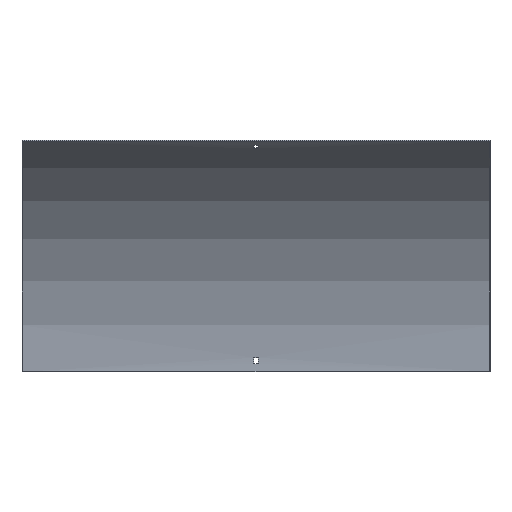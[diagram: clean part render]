
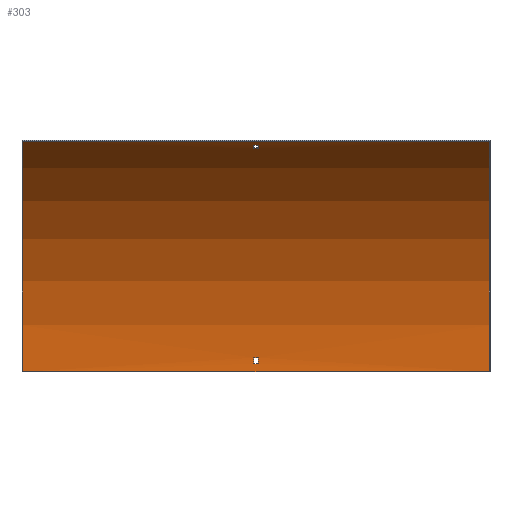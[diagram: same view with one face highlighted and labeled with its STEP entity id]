
A CAD part, front view. The second image highlights one B-rep face of the part: STEP entity #303.
In plain terms, the highlighted cylindrical face has radius 400 mm (diameter 800 mm), a partial arc.
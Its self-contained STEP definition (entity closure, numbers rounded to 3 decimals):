
#1 = EDGE_CURVE ( 'NONE', #235, #529, #507, .T. ) ;
#6 = ORIENTED_EDGE ( 'NONE', *, *, #49, .F. ) ;
#7 = VERTEX_POINT ( 'NONE', #135 ) ;
#9 = LINE ( 'NONE', #280, #113 ) ;
#12 = DIRECTION ( 'NONE',  ( -1., 0., 0. ) ) ;
#14 = LINE ( 'NONE', #530, #281 ) ;
#29 = FACE_OUTER_BOUND ( 'NONE', #126, .T. ) ;
#35 = DIRECTION ( 'NONE',  ( 1., 0., 0. ) ) ;
#37 = DIRECTION ( 'NONE',  ( -1., 0., 0. ) ) ;
#47 = VERTEX_POINT ( 'NONE', #350 ) ;
#49 = EDGE_CURVE ( 'NONE', #591, #105, #145, .T. ) ;
#54 = EDGE_CURVE ( 'NONE', #584, #407, #182, .T. ) ;
#60 = DIRECTION ( 'NONE',  ( -1., 0., 0. ) ) ;
#72 = CARTESIAN_POINT ( 'NONE',  ( 3.25, -183.589, 335.432 ) ) ;
#86 = VECTOR ( 'NONE', #343, 1000. ) ;
#89 = AXIS2_PLACEMENT_3D ( 'NONE', #285, #373, #480 ) ;
#91 = CARTESIAN_POINT ( 'NONE',  ( 351.5, -401.5, 0. ) ) ;
#99 = ORIENTED_EDGE ( 'NONE', *, *, #551, .F. ) ;
#105 = VERTEX_POINT ( 'NONE', #305 ) ;
#113 = VECTOR ( 'NONE', #255, 1000. ) ;
#118 = EDGE_CURVE ( 'NONE', #529, #584, #9, .T. ) ;
#120 = CARTESIAN_POINT ( 'NONE',  ( 350., -401.5, 0. ) ) ;
#122 = CARTESIAN_POINT ( 'NONE',  ( 3.25, -191.198, 340.254 ) ) ;
#126 = EDGE_LOOP ( 'NONE', ( #488, #419, #428, #505 ) ) ;
#127 = EDGE_CURVE ( 'NONE', #105, #290, #540, .T. ) ;
#129 = CARTESIAN_POINT ( 'NONE',  ( -3.25, -183.589, 335.432 ) ) ;
#135 = CARTESIAN_POINT ( 'NONE',  ( 3.25, -1.68, 12. ) ) ;
#139 = CARTESIAN_POINT ( 'NONE',  ( -3.25, -401.5, 0. ) ) ;
#144 = DIRECTION ( 'NONE',  ( 0., 0., -1. ) ) ;
#145 = LINE ( 'NONE', #498, #454 ) ;
#146 = EDGE_CURVE ( 'NONE', #47, #432, #278, .T. ) ;
#148 = EDGE_CURVE ( 'NONE', #502, #334, #14, .T. ) ;
#160 = AXIS2_PLACEMENT_3D ( 'NONE', #574, #216, #400 ) ;
#161 = DIRECTION ( 'NONE',  ( 0., 0., -1. ) ) ;
#182 = CIRCLE ( 'NONE', #89, 400. ) ;
#188 = CARTESIAN_POINT ( 'NONE',  ( 350., -201.5, 346.41 ) ) ;
#189 = CARTESIAN_POINT ( 'NONE',  ( -350., -401.5, 0. ) ) ;
#197 = ORIENTED_EDGE ( 'NONE', *, *, #118, .T. ) ;
#200 = EDGE_LOOP ( 'NONE', ( #325, #6, #99, #467 ) ) ;
#203 = EDGE_CURVE ( 'NONE', #407, #235, #501, .T. ) ;
#207 = AXIS2_PLACEMENT_3D ( 'NONE', #514, #225, #412 ) ;
#210 = DIRECTION ( 'NONE',  ( 0., 0., 1. ) ) ;
#216 = DIRECTION ( 'NONE',  ( -1., 0., 0. ) ) ;
#225 = DIRECTION ( 'NONE',  ( 1., 0., 0. ) ) ;
#227 = AXIS2_PLACEMENT_3D ( 'NONE', #189, #573, #144 ) ;
#235 = VERTEX_POINT ( 'NONE', #129 ) ;
#246 = ORIENTED_EDGE ( 'NONE', *, *, #203, .T. ) ;
#250 = CARTESIAN_POINT ( 'NONE',  ( -3.25, -1.68, 12. ) ) ;
#255 = DIRECTION ( 'NONE',  ( 1., 0., 0. ) ) ;
#261 = CYLINDRICAL_SURFACE ( 'NONE', #338, 400. ) ;
#278 = LINE ( 'NONE', #188, #424 ) ;
#279 = CIRCLE ( 'NONE', #227, 400. ) ;
#280 = CARTESIAN_POINT ( 'NONE',  ( 351.5, -191.198, 340.254 ) ) ;
#281 = VECTOR ( 'NONE', #583, 1000. ) ;
#284 = VECTOR ( 'NONE', #35, 1000. ) ;
#285 = CARTESIAN_POINT ( 'NONE',  ( 3.25, -401.5, 0. ) ) ;
#290 = VERTEX_POINT ( 'NONE', #250 ) ;
#303 = ADVANCED_FACE ( 'NONE', ( #444, #29, #311 ), #261, .F. ) ;
#305 = CARTESIAN_POINT ( 'NONE',  ( -3.25, -2.052, 21. ) ) ;
#311 = FACE_BOUND ( 'NONE', #477, .T. ) ;
#325 = ORIENTED_EDGE ( 'NONE', *, *, #127, .F. ) ;
#334 = VERTEX_POINT ( 'NONE', #456 ) ;
#335 = CARTESIAN_POINT ( 'NONE',  ( 350., -1.5, 0. ) ) ;
#338 = AXIS2_PLACEMENT_3D ( 'NONE', #91, #37, #210 ) ;
#343 = DIRECTION ( 'NONE',  ( -1., 0., 0. ) ) ;
#350 = CARTESIAN_POINT ( 'NONE',  ( 350., -201.5, 346.41 ) ) ;
#358 = EDGE_CURVE ( 'NONE', #502, #47, #589, .T. ) ;
#361 = AXIS2_PLACEMENT_3D ( 'NONE', #139, #461, #521 ) ;
#363 = ORIENTED_EDGE ( 'NONE', *, *, #54, .T. ) ;
#368 = ORIENTED_EDGE ( 'NONE', *, *, #1, .T. ) ;
#373 = DIRECTION ( 'NONE',  ( -1., 0., 0. ) ) ;
#389 = CARTESIAN_POINT ( 'NONE',  ( -350., -201.5, 346.41 ) ) ;
#400 = DIRECTION ( 'NONE',  ( 0., 0., 1. ) ) ;
#405 = CARTESIAN_POINT ( 'NONE',  ( 3.25, -2.052, 21. ) ) ;
#407 = VERTEX_POINT ( 'NONE', #72 ) ;
#409 = DIRECTION ( 'NONE',  ( 1., 0., 0. ) ) ;
#412 = DIRECTION ( 'NONE',  ( 0., 0., -1. ) ) ;
#418 = AXIS2_PLACEMENT_3D ( 'NONE', #120, #409, #161 ) ;
#419 = ORIENTED_EDGE ( 'NONE', *, *, #148, .F. ) ;
#421 = EDGE_CURVE ( 'NONE', #290, #7, #450, .T. ) ;
#424 = VECTOR ( 'NONE', #60, 1000. ) ;
#428 = ORIENTED_EDGE ( 'NONE', *, *, #358, .T. ) ;
#432 = VERTEX_POINT ( 'NONE', #389 ) ;
#444 = FACE_BOUND ( 'NONE', #200, .T. ) ;
#450 = LINE ( 'NONE', #550, #284 ) ;
#454 = VECTOR ( 'NONE', #12, 1000. ) ;
#456 = CARTESIAN_POINT ( 'NONE',  ( -350., -1.5, 0. ) ) ;
#461 = DIRECTION ( 'NONE',  ( 1., 0., 0. ) ) ;
#465 = CARTESIAN_POINT ( 'NONE',  ( -3.25, -191.198, 340.254 ) ) ;
#467 = ORIENTED_EDGE ( 'NONE', *, *, #421, .F. ) ;
#473 = CIRCLE ( 'NONE', #207, 400. ) ;
#477 = EDGE_LOOP ( 'NONE', ( #246, #368, #197, #363 ) ) ;
#480 = DIRECTION ( 'NONE',  ( 0., 0., 1. ) ) ;
#488 = ORIENTED_EDGE ( 'NONE', *, *, #560, .F. ) ;
#498 = CARTESIAN_POINT ( 'NONE',  ( 351.5, -2.052, 21. ) ) ;
#501 = LINE ( 'NONE', #598, #86 ) ;
#502 = VERTEX_POINT ( 'NONE', #335 ) ;
#505 = ORIENTED_EDGE ( 'NONE', *, *, #146, .T. ) ;
#507 = CIRCLE ( 'NONE', #361, 400. ) ;
#514 = CARTESIAN_POINT ( 'NONE',  ( 3.25, -401.5, 0. ) ) ;
#521 = DIRECTION ( 'NONE',  ( 0., 1., 0. ) ) ;
#529 = VERTEX_POINT ( 'NONE', #465 ) ;
#530 = CARTESIAN_POINT ( 'NONE',  ( 350., -1.5, 0. ) ) ;
#540 = CIRCLE ( 'NONE', #160, 400. ) ;
#550 = CARTESIAN_POINT ( 'NONE',  ( 351.5, -1.68, 12. ) ) ;
#551 = EDGE_CURVE ( 'NONE', #7, #591, #473, .T. ) ;
#560 = EDGE_CURVE ( 'NONE', #334, #432, #279, .T. ) ;
#573 = DIRECTION ( 'NONE',  ( 1., 0., 0. ) ) ;
#574 = CARTESIAN_POINT ( 'NONE',  ( -3.25, -401.5, 0. ) ) ;
#583 = DIRECTION ( 'NONE',  ( -1., 0., 0. ) ) ;
#584 = VERTEX_POINT ( 'NONE', #122 ) ;
#589 = CIRCLE ( 'NONE', #418, 400. ) ;
#591 = VERTEX_POINT ( 'NONE', #405 ) ;
#598 = CARTESIAN_POINT ( 'NONE',  ( 351.5, -183.589, 335.432 ) ) ;
